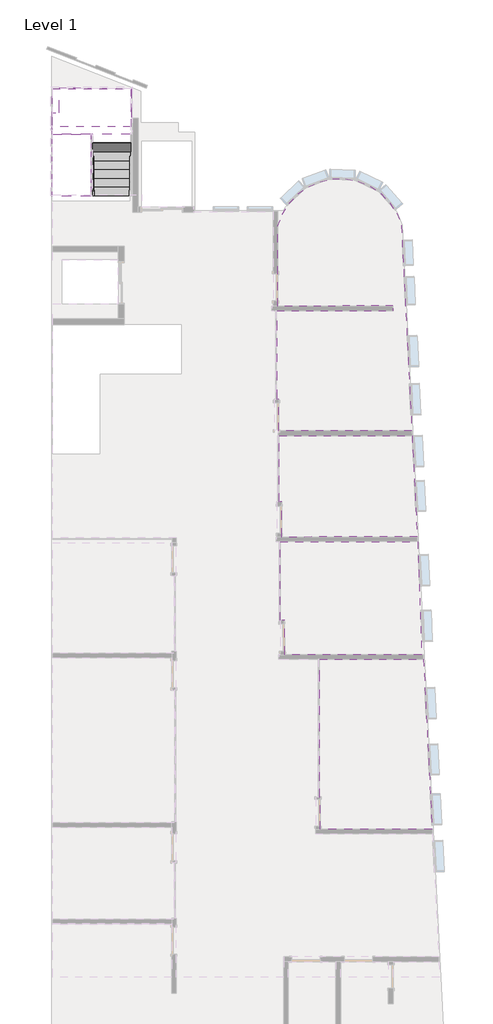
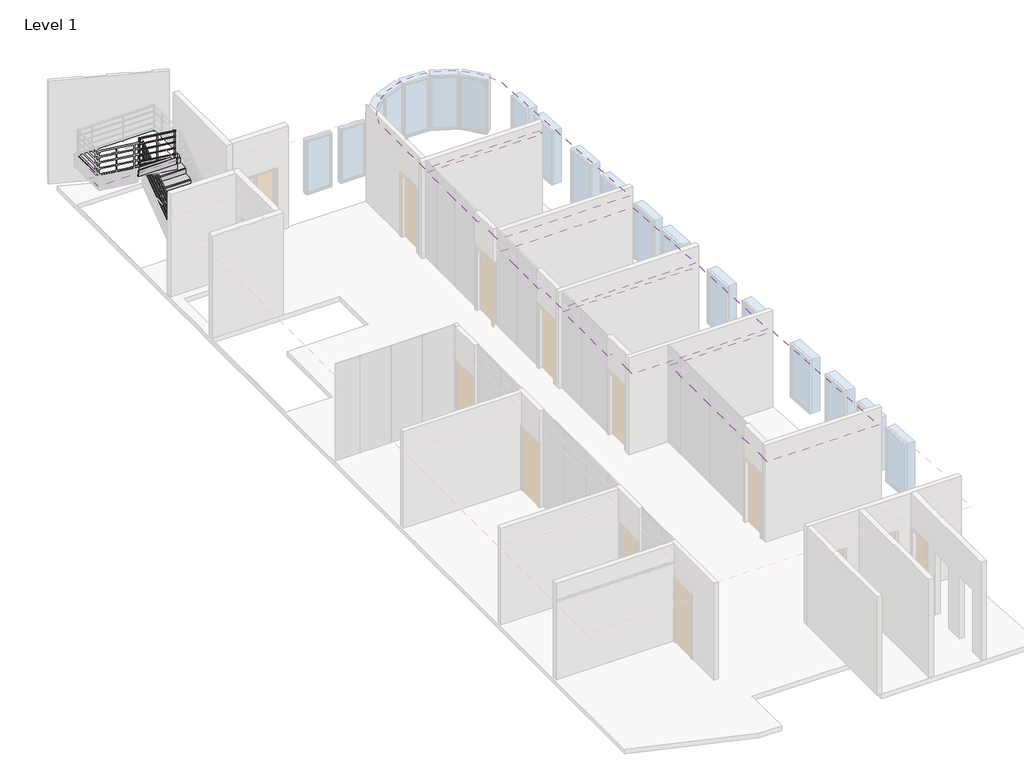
# One storey, part 3 of 4: 5 coverings, 2 stair flights, 1 railing, 1 slab.
"""IFC4 building model written with IfcOpenShell, lengths in millimetres."""

from ifc_helpers import new_model, si_unit, point, frame, frame_2d, origin, place, context, project, spatial, polyline, circle_curve, ellipse_curve, trimmed, segment, composite_curve, outline, extrude, transform, mapped, element, save
from ifc_brep_helpers import plane_surface, cylinder_surface, advanced_brep
from components import non_monolithic_landing_693965b0, stair_flight_50mm_tread_13mm_riser_f0b479b5, stair_flight_50mm_tread_13mm_riser_006057ae

model = new_model("IFC4")

# Units and contexts
model_context = context("Model", 3, world=origin())
ifc_project = project(units=[si_unit("LENGTHUNIT", "METRE", prefix="MILLI")], contexts=[model_context])

# Site, building, storey
site = spatial("IfcSite", under=ifc_project)
building = spatial("IfcBuilding", under=site)
storey = spatial("IfcBuildingStorey", under=building, Name="Level 1", Elevation=4500.0)

# Coverings
placement = place(None, origin())
element("IfcCovering", 1, ObjectType="600 x 600mm Grid", at=placement, inside=storey, context=model_context, shape_type="SweptSolid", body=[
    extrude(outline(composite_curve([segment(polyline([(7150.5392732, 6948.450989), (7150.5392732, 9509.6119752)]), True, "CONTINUOUS"), segment(trimmed(circle_curve(frame_2d((9131.2105116, 8980.9897456)), 2050.0000039), [point((7150.5392732, 9509.6119752))], [point((11105.4759403, 9533.0549888))], False, "CARTESIAN"), True, "CONTINUOUS"), segment(polyline([(11105.4759403, 9533.0549888), (11440.2894881, 2957.3506855), (7185.1048556, 2957.3506855), (7185.1048556, 3970.7828627), (7130.5392732, 3970.7828627), (7130.5392732, 5170.7828627), (7130.5392732, 6170.7828627), (7130.5392732, 6798.4082432), (10838.0678893, 6806.2697987), (10837.7498255, 6956.2694615), (7150.5392732, 6948.450989)]), True, "CONTINUOUS")], self_intersect=False)), frame((0.0, 0.0, 7400.0), z_axis=(0.0, 0.0, 1.0), x_axis=(1.0, 0.0, 0.0)), (0.0, 0.0, 1.0), 52.0),
])
element("IfcCovering", 2, ObjectType="600 x 600mm Grid", at=placement, inside=storey, context=model_context, shape_type="SweptSolid", body=[
    extrude(outline(polyline([(7197.8570765, 2807.3506855), (11447.9270018, 2807.3506855), (11612.8107888, -430.9502585), (7272.8570765, -443.3366135), (7272.8570765, 681.4490289), (7197.8570765, 681.4490289), (7197.8570765, 1802.2893787), (7197.8570765, 2807.3506855)])), frame((0.0, 0.0, 7100.0), z_axis=(0.0, 0.0, 1.0), x_axis=(1.0, 0.0, 0.0)), (0.0, 0.0, 1.0), 52.0),
])
element("IfcCovering", 3, ObjectType="600 x 600mm Grid", at=placement, inside=storey, context=model_context, shape_type="SweptSolid", body=[
    extrude(outline(polyline([(8499.9667664, -4355.3047697), (11812.6261996, -4355.3047697), (12089.3476816, -9790.0867626), (8510.4667664, -9790.0867626), (8510.4667664, -8765.0867626), (8499.9667664, -8765.0867626), (8499.9667664, -6665.0867626), (8499.9667664, -5065.0867626), (8499.9667664, -4355.3047697)])), frame((0.0, 0.0, 7100.0), z_axis=(0.0, 0.0, 1.0), x_axis=(1.0, 0.0, 0.0)), (0.0, 0.0, 1.0), 52.0),
])
element("IfcCovering", 4, ObjectType="600 x 600mm Grid", at=placement, inside=storey, context=model_context, shape_type="SweptSolid", body=[
    extrude(outline(polyline([(11624.8137467, -593.4044177), (11750.9440863, -4205.3047697), (7374.3774869, -4205.3047697), (7374.3774869, -3105.3047697), (7224.8137467, -3105.3047697), (7224.8137467, -593.4044177), (11624.8137467, -593.4044177)])), frame((0.0, 0.0, 7100.0), z_axis=(0.0, 0.0, 1.0), x_axis=(1.0, 0.0, 0.0)), (0.0, 0.0, 1.0), 52.0),
])
element("IfcCovering", 5, ObjectType="600 x 600mm Grid", at=placement, inside=storey, context=model_context, shape_type="SweptSolid", body=[
    extrude(outline(polyline([(2454.9743495, 12688.8107611), (-60.0421304, 12688.8107611), (-60.0421304, 13143.419171), (149.9709975, 13143.419171), (149.9709975, 13943.419171), (2454.9743495, 13908.8107611), (2454.9743495, 12688.8107611)])), frame((0.0, 0.0, 5850.0), z_axis=(0.0, 0.0, 1.0), x_axis=(1.0, 0.0, 0.0)), (0.0, 0.0, 1.0), 52.0),
])

# Railing
element("IfcRailing", 6, ObjectType="900mm Pipe", at=placement, inside=storey, context=model_context, shape_type="SolidModel", body=[
    advanced_brep(
    [(1272.6607589, 10481.5722364, 5581.0577084), (1232.6607589, 10481.5722364, 5581.0577084), (1272.6607589, 12494.9330657, 7061.4700829), (1232.6607589, 12462.7070252, 7037.7744649)],
    [
        (0, 1, ellipse_curve(frame((1252.6607589, 10481.5722364, 5581.0577084), z_axis=(0.0, -1.0, 0.0), x_axis=(0.0, 0.0, -1.0)), 24.8246445, 20.0)),
        (1, 0, ellipse_curve(frame((1252.6607589, 10481.5722364, 5581.0577084), z_axis=(0.0, -1.0, 0.0), x_axis=(0.0, 0.0, -1.0)), 24.8246445, 20.0)),
        (2, 3, ellipse_curve(frame((1252.6607589, 12478.8200454, 7049.6222739), z_axis=(-0.7071067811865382, 0.5696812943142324, 0.4188833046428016), x_axis=(-0.7071067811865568, -0.569681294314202, -0.41888330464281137)), 28.2842712, 20.0)),
        (3, 2, ellipse_curve(frame((1252.6607589, 12478.8200454, 7049.6222739), z_axis=(-0.7071067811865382, 0.5696812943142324, 0.4188833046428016), x_axis=(-0.7071067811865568, -0.569681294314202, -0.41888330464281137)), 28.2842712, 20.0)),
        (0, 2),
        (3, 1),
    ],
    [
        plane_surface(frame((1252.6607589, 10481.5722364, 5605.8823529), z_axis=(0.0, -1.0, 0.0), x_axis=(0.0, 0.0, 1.0))),
        plane_surface(frame((1252.6607589, 12466.9722364, 7065.7352941), z_axis=(-0.7071067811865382, 0.5696812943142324, 0.4188833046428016), x_axis=(0.7071067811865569, 0.5696812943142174, 0.41888330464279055))),
        cylinder_surface(frame((1252.6607589, 10493.4200454, 5589.7693327), z_axis=(0.0, -0.8056510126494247, -0.5923904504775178), x_axis=(-1.0, 0.0, 0.0)), 20.0),
    ],
    [
        (0, [[1, 2]]),
        (1, [[3, 4]]),
        (2, [[-1, 5, -4, 6]]),
        (2, [[-2, -6, -3, -5]]),
    ],
),
    advanced_brep(
    [(1256.9259701, 12486.9722364, 7027.0588235), (1224.6999296, 12446.9722364, 7027.0588235), (1131.8607589, 12486.9722364, 7027.0588235), (1131.8607589, 12446.9722364, 7027.0588235)],
    [
        (0, 1, ellipse_curve(frame((1240.8129499, 12466.9722364, 7027.0588235), z_axis=(0.7071067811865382, -0.5696812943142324, -0.4188833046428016), x_axis=(0.7071067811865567, 0.5696812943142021, 0.4188833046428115)), 28.2842712, 20.0)),
        (1, 0, ellipse_curve(frame((1240.8129499, 12466.9722364, 7027.0588235), z_axis=(0.7071067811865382, -0.5696812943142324, -0.4188833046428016), x_axis=(0.7071067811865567, 0.5696812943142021, 0.4188833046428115)), 28.2842712, 20.0)),
        (2, 3, ellipse_curve(frame((1131.8607589, 12466.9722364, 7027.0588235), z_axis=(-0.7071067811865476, 0.0, 0.7071067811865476), x_axis=(0.7071067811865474, 0.0, 0.7071067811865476)), 28.2842712, 20.0)),
        (3, 2, ellipse_curve(frame((1131.8607589, 12466.9722364, 7027.0588235), z_axis=(-0.7071067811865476, 0.0, 0.7071067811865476), x_axis=(0.7071067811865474, 0.0, 0.7071067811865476)), 28.2842712, 20.0)),
        (0, 2),
        (3, 1),
    ],
    [
        plane_surface(frame((1252.6607589, 12466.9722364, 7047.0588235), z_axis=(0.7071067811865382, -0.5696812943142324, -0.4188833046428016), x_axis=(0.7071067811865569, 0.5696812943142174, 0.41888330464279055))),
        plane_surface(frame((1151.8607589, 12466.9722364, 7047.0588235), z_axis=(-0.7071067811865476, 0.0, 0.7071067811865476), x_axis=(0.7071067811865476, 0.0, 0.7071067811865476))),
        cylinder_surface(frame((1252.6607589, 12466.9722364, 7027.0588235), z_axis=(1.0, 0.0, 0.0), x_axis=(0.0, -1.0, 0.0)), 20.0),
    ],
    [
        (0, [[1, 2]]),
        (1, [[3, 4]]),
        (2, [[-1, 5, -4, 6]]),
        (2, [[-2, -6, -3, -5]]),
    ],
),
    advanced_brep(
    [(1131.8607589, 12486.9722364, 7027.0588235), (1131.8607589, 12446.9722364, 7027.0588235), (1131.8607589, 12486.9722364, 7219.5588235), (1131.8607589, 12446.9722364, 7199.3212992)],
    [
        (0, 1, ellipse_curve(frame((1131.8607589, 12466.9722364, 7027.0588235), z_axis=(0.7071067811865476, 0.0, -0.7071067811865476), x_axis=(-0.7071067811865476, 0.0, -0.7071067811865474)), 28.2842712, 20.0)),
        (1, 0, ellipse_curve(frame((1131.8607589, 12466.9722364, 7027.0588235), z_axis=(0.7071067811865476, 0.0, -0.7071067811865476), x_axis=(-0.7071067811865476, 0.0, -0.7071067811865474)), 28.2842712, 20.0)),
        (2, 3, ellipse_curve(frame((1131.8607589, 12466.9722364, 7209.4400614), z_axis=(0.0, -0.451447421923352, 0.892297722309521), x_axis=(0.0, -0.8922977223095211, -0.4514474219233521)), 22.4140435, 20.0)),
        (3, 2, ellipse_curve(frame((1131.8607589, 12466.9722364, 7209.4400614), z_axis=(0.0, -0.451447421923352, 0.892297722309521), x_axis=(0.0, -0.8922977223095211, -0.4514474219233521)), 22.4140435, 20.0)),
        (0, 2),
        (3, 1),
    ],
    [
        plane_surface(frame((1131.8607589, 12466.9722364, 7027.0588235), z_axis=(0.7071067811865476, 0.0, -0.7071067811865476), x_axis=(0.7071067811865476, 0.0, 0.7071067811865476))),
        plane_surface(frame((1131.8607589, 12466.9722364, 7209.4400614), z_axis=(0.0, -0.451447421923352, 0.892297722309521), x_axis=(1.0, 0.0, 0.0))),
        cylinder_surface(frame((1131.8607589, 12466.9722364, 7027.0588235), z_axis=(0.0, 0.0, -1.0), x_axis=(0.0, -1.0, 0.0)), 20.0),
    ],
    [
        (0, [[1, 2]]),
        (1, [[3, 4]]),
        (2, [[-1, 5, -4, 6]]),
        (2, [[-2, -6, -3, -5]]),
    ],
),
    advanced_brep(
    [(1111.8607589, 12466.9722364, 7209.4400614), (1151.8607589, 12466.9722364, 7209.4400614), (1111.8607589, 10481.5722364, 8669.2930025), (1151.8607589, 10481.5722364, 8669.2930025)],
    [
        (0, 1, ellipse_curve(frame((1131.8607589, 12466.9722364, 7209.4400614), z_axis=(0.0, 0.451447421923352, -0.892297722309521), x_axis=(0.0, 0.8922977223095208, 0.4514474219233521)), 22.4140435, 20.0)),
        (1, 0, ellipse_curve(frame((1131.8607589, 12466.9722364, 7209.4400614), z_axis=(0.0, 0.451447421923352, -0.892297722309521), x_axis=(0.0, 0.8922977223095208, 0.4514474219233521)), 22.4140435, 20.0)),
        (2, 3, ellipse_curve(frame((1131.8607589, 10481.5722364, 8669.2930025), z_axis=(0.0, -1.0, 0.0), x_axis=(0.0, 0.0, -0.9999999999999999)), 24.8246445, 20.0)),
        (3, 2, ellipse_curve(frame((1131.8607589, 10481.5722364, 8669.2930025), z_axis=(0.0, -1.0, 0.0), x_axis=(0.0, 0.0, -0.9999999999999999)), 24.8246445, 20.0)),
        (0, 2),
        (3, 1),
    ],
    [
        plane_surface(frame((1131.8607589, 12486.9722364, 7219.5588235), z_axis=(0.0, 0.451447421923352, -0.892297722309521), x_axis=(1.0, 0.0, 0.0))),
        plane_surface(frame((1131.8607589, 10481.5722364, 8694.1176471), z_axis=(0.0, -1.0, 0.0), x_axis=(0.0, 0.0, -1.0))),
        cylinder_surface(frame((1131.8607589, 12475.1244274, 7203.4458033), z_axis=(0.0, 0.8056510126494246, -0.5923904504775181), x_axis=(1.0, 0.0, 0.0)), 20.0),
    ],
    [
        (0, [[1, 2]]),
        (1, [[3, 4]]),
        (2, [[-1, 5, -4, 6]]),
        (2, [[-2, -6, -3, -5]]),
    ],
),
    advanced_brep(
    [(1267.6607589, 10481.5722364, 5387.2638695), (1237.6607589, 10481.5722364, 5387.2638695), (1267.6607589, 12446.4933738, 6832.0588235), (1237.6607589, 12446.4933738, 6832.0588235), (1267.6607589, 12481.9722364, 6832.0588235), (1237.6607589, 12451.9722364, 6832.0588235), (1146.8607589, 12481.9722364, 6832.0588235), (1146.8607589, 12451.9722364, 6832.0588235)],
    [
        (0, 1, ellipse_curve(frame((1252.6607589, 10481.5722364, 5387.2638695), z_axis=(0.0, -1.0, 0.0), x_axis=(0.0, 0.0, -1.0)), 18.6184834, 15.0)),
        (1, 0, ellipse_curve(frame((1252.6607589, 10481.5722364, 5387.2638695), z_axis=(0.0, -1.0, 0.0), x_axis=(0.0, 0.0, -1.0)), 18.6184834, 15.0)),
        (0, 2),
        (2, 3, ellipse_curve(frame((1252.6607589, 12446.4933738, 6832.0588235), z_axis=(0.0, -0.9501713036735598, -0.3117282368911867), x_axis=(0.0, 0.311728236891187, -0.9501713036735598)), 15.786627, 15.0)),
        (3, 1),
        (3, 2, ellipse_curve(frame((1252.6607589, 12446.4933738, 6832.0588235), z_axis=(0.0, -0.9501713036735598, -0.3117282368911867), x_axis=(0.0, 0.311728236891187, -0.9501713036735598)), 15.786627, 15.0)),
        (2, 4),
        (4, 5, ellipse_curve(frame((1252.6607589, 12466.9722364, 6832.0588235), z_axis=(0.7071067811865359, -0.7071067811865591, 0.0), x_axis=(-0.707106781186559, -0.7071067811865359, 0.0)), 21.2132034, 15.0)),
        (5, 3),
        (5, 4, ellipse_curve(frame((1252.6607589, 12466.9722364, 6832.0588235), z_axis=(0.7071067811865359, -0.7071067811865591, 0.0), x_axis=(-0.707106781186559, -0.7071067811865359, 0.0)), 21.2132034, 15.0)),
        (6, 7, circle_curve(frame((1146.8607589, 12466.9722364, 6832.0588235), z_axis=(-1.0, 0.0, 0.0), x_axis=(0.0, -1.0, 0.0)), 15.0)),
        (7, 6, circle_curve(frame((1146.8607589, 12466.9722364, 6832.0588235), z_axis=(-1.0, 0.0, 0.0), x_axis=(0.0, -1.0, 0.0)), 15.0)),
        (4, 6),
        (7, 5),
    ],
    [
        plane_surface(frame((1252.6607589, 10481.5722364, 5405.8823529), z_axis=(0.0, -1.0, 0.0), x_axis=(0.0, 0.0, 1.0))),
        cylinder_surface(frame((1252.6607589, 10490.4580932, 5393.7975878), z_axis=(0.0, -0.8056510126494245, -0.5923904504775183), x_axis=(-1.0, 0.0, 0.0)), 15.0),
        cylinder_surface(frame((1252.6607589, 12441.5722364, 6832.0588235), z_axis=(0.0, -1.0, 0.0), x_axis=(-1.0, 0.0, 0.0)), 15.0),
        plane_surface(frame((1146.8607589, 12466.9722364, 6847.0588235), z_axis=(-1.0, 0.0, 0.0), x_axis=(0.0, -1.0, 0.0))),
        cylinder_surface(frame((1252.6607589, 12466.9722364, 6832.0588235), z_axis=(1.0, 0.0, 0.0), x_axis=(0.0, -1.0, 0.0)), 15.0),
    ],
    [
        (0, [[1, 2]]),
        (1, [[-1, 3, 4, 5]]),
        (1, [[-2, -5, 6, -3]]),
        (2, [[-4, 7, 8, 9]]),
        (2, [[-6, -9, 10, -7]]),
        (3, [[11, 12]]),
        (4, [[-8, 13, -12, 14]]),
        (4, [[-10, -14, -11, -13]]),
    ],
),
    advanced_brep(
    [(1116.8607589, 12481.9722364, 7004.6168107), (1146.8607589, 12481.9722364, 7004.6168107), (1116.8607589, 10481.5722364, 8475.4991637), (1146.8607589, 10481.5722364, 8475.4991637)],
    [
        (0, 1, ellipse_curve(frame((1131.8607589, 12481.9722364, 7004.6168107), z_axis=(0.0, 1.0, 0.0), x_axis=(0.0, 0.0, -0.9999999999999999)), 18.6184834, 15.0)),
        (1, 0, ellipse_curve(frame((1131.8607589, 12481.9722364, 7004.6168107), z_axis=(0.0, 1.0, 0.0), x_axis=(0.0, 0.0, -0.9999999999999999)), 18.6184834, 15.0)),
        (2, 3, ellipse_curve(frame((1131.8607589, 10481.5722364, 8475.4991637), z_axis=(0.0, -1.0, 0.0), x_axis=(0.0, 0.0, -0.9999999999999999)), 18.6184834, 15.0)),
        (3, 2, ellipse_curve(frame((1131.8607589, 10481.5722364, 8475.4991637), z_axis=(0.0, -1.0, 0.0), x_axis=(0.0, 0.0, -0.9999999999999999)), 18.6184834, 15.0)),
        (0, 2),
        (3, 1),
    ],
    [
        plane_surface(frame((1131.8607589, 12481.9722364, 7023.2352941), z_axis=(0.0, 1.0, 0.0), x_axis=(0.0, 0.0, -1.0))),
        plane_surface(frame((1131.8607589, 10481.5722364, 8494.1176471), z_axis=(0.0, -1.0, 0.0), x_axis=(0.0, 0.0, -1.0))),
        cylinder_surface(frame((1131.8607589, 12473.0863797, 7011.1505289), z_axis=(0.0, 0.8056510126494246, -0.5923904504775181), x_axis=(1.0, 0.0, 0.0)), 15.0),
    ],
    [
        (0, [[1, 2]]),
        (1, [[3, 4]]),
        (2, [[-1, 5, -4, 6]]),
        (2, [[-2, -6, -3, -5]]),
    ],
),
    advanced_brep(
    [(1267.6607589, 10481.5722364, 5187.2638695), (1237.6607589, 10481.5722364, 5187.2638695), (1267.6607589, 12446.4933738, 6632.0588235), (1237.6607589, 12446.4933738, 6632.0588235), (1267.6607589, 12481.9722364, 6632.0588235), (1237.6607589, 12451.9722364, 6632.0588235), (1146.8607589, 12481.9722364, 6632.0588235), (1146.8607589, 12451.9722364, 6632.0588235)],
    [
        (0, 1, ellipse_curve(frame((1252.6607589, 10481.5722364, 5187.2638695), z_axis=(0.0, -1.0, 0.0), x_axis=(0.0, 0.0, -1.0)), 18.6184834, 15.0)),
        (1, 0, ellipse_curve(frame((1252.6607589, 10481.5722364, 5187.2638695), z_axis=(0.0, -1.0, 0.0), x_axis=(0.0, 0.0, -1.0)), 18.6184834, 15.0)),
        (0, 2),
        (2, 3, ellipse_curve(frame((1252.6607589, 12446.4933738, 6632.0588235), z_axis=(0.0, -0.9501713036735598, -0.3117282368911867), x_axis=(0.0, 0.311728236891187, -0.9501713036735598)), 15.786627, 15.0)),
        (3, 1),
        (3, 2, ellipse_curve(frame((1252.6607589, 12446.4933738, 6632.0588235), z_axis=(0.0, -0.9501713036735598, -0.3117282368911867), x_axis=(0.0, 0.311728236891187, -0.9501713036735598)), 15.786627, 15.0)),
        (2, 4),
        (4, 5, ellipse_curve(frame((1252.6607589, 12466.9722364, 6632.0588235), z_axis=(0.7071067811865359, -0.7071067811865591, 0.0), x_axis=(-0.707106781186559, -0.7071067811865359, 0.0)), 21.2132034, 15.0)),
        (5, 3),
        (5, 4, ellipse_curve(frame((1252.6607589, 12466.9722364, 6632.0588235), z_axis=(0.7071067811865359, -0.7071067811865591, 0.0), x_axis=(-0.707106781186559, -0.7071067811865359, 0.0)), 21.2132034, 15.0)),
        (6, 7, circle_curve(frame((1146.8607589, 12466.9722364, 6632.0588235), z_axis=(-1.0, 0.0, 0.0), x_axis=(0.0, -1.0, 0.0)), 15.0)),
        (7, 6, circle_curve(frame((1146.8607589, 12466.9722364, 6632.0588235), z_axis=(-1.0, 0.0, 0.0), x_axis=(0.0, -1.0, 0.0)), 15.0)),
        (4, 6),
        (7, 5),
    ],
    [
        plane_surface(frame((1252.6607589, 10481.5722364, 5205.8823529), z_axis=(0.0, -1.0, 0.0), x_axis=(0.0, 0.0, 1.0))),
        cylinder_surface(frame((1252.6607589, 10490.4580932, 5193.7975878), z_axis=(0.0, -0.8056510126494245, -0.5923904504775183), x_axis=(-1.0, 0.0, 0.0)), 15.0),
        cylinder_surface(frame((1252.6607589, 12441.5722364, 6632.0588235), z_axis=(0.0, -1.0, 0.0), x_axis=(-1.0, 0.0, 0.0)), 15.0),
        plane_surface(frame((1146.8607589, 12466.9722364, 6647.0588235), z_axis=(-1.0, 0.0, 0.0), x_axis=(0.0, -1.0, 0.0))),
        cylinder_surface(frame((1252.6607589, 12466.9722364, 6632.0588235), z_axis=(1.0, 0.0, 0.0), x_axis=(0.0, -1.0, 0.0)), 15.0),
    ],
    [
        (0, [[1, 2]]),
        (1, [[-1, 3, 4, 5]]),
        (1, [[-2, -5, 6, -3]]),
        (2, [[-4, 7, 8, 9]]),
        (2, [[-6, -9, 10, -7]]),
        (3, [[11, 12]]),
        (4, [[-8, 13, -12, 14]]),
        (4, [[-10, -14, -11, -13]]),
    ],
),
    advanced_brep(
    [(1116.8607589, 12481.9722364, 6804.6168107), (1146.8607589, 12481.9722364, 6804.6168107), (1116.8607589, 10481.5722364, 8275.4991637), (1146.8607589, 10481.5722364, 8275.4991637)],
    [
        (0, 1, ellipse_curve(frame((1131.8607589, 12481.9722364, 6804.6168107), z_axis=(0.0, 1.0, 0.0), x_axis=(0.0, 0.0, -0.9999999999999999)), 18.6184834, 15.0)),
        (1, 0, ellipse_curve(frame((1131.8607589, 12481.9722364, 6804.6168107), z_axis=(0.0, 1.0, 0.0), x_axis=(0.0, 0.0, -0.9999999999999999)), 18.6184834, 15.0)),
        (2, 3, ellipse_curve(frame((1131.8607589, 10481.5722364, 8275.4991637), z_axis=(0.0, -1.0, 0.0), x_axis=(0.0, 0.0, -0.9999999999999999)), 18.6184834, 15.0)),
        (3, 2, ellipse_curve(frame((1131.8607589, 10481.5722364, 8275.4991637), z_axis=(0.0, -1.0, 0.0), x_axis=(0.0, 0.0, -0.9999999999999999)), 18.6184834, 15.0)),
        (0, 2),
        (3, 1),
    ],
    [
        plane_surface(frame((1131.8607589, 12481.9722364, 6823.2352941), z_axis=(0.0, 1.0, 0.0), x_axis=(0.0, 0.0, -1.0))),
        plane_surface(frame((1131.8607589, 10481.5722364, 8294.1176471), z_axis=(0.0, -1.0, 0.0), x_axis=(0.0, 0.0, -1.0))),
        cylinder_surface(frame((1131.8607589, 12473.0863797, 6811.1505289), z_axis=(0.0, 0.8056510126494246, -0.5923904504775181), x_axis=(1.0, 0.0, 0.0)), 15.0),
    ],
    [
        (0, [[1, 2]]),
        (1, [[3, 4]]),
        (2, [[-1, 5, -4, 6]]),
        (2, [[-2, -6, -3, -5]]),
    ],
),
    advanced_brep(
    [(1267.6607589, 10481.5722364, 4987.2638695), (1237.6607589, 10481.5722364, 4987.2638695), (1267.6607589, 12446.4933738, 6432.0588235), (1237.6607589, 12446.4933738, 6432.0588235), (1267.6607589, 12481.9722364, 6432.0588235), (1237.6607589, 12451.9722364, 6432.0588235), (1146.8607589, 12481.9722364, 6432.0588235), (1146.8607589, 12451.9722364, 6432.0588235)],
    [
        (0, 1, ellipse_curve(frame((1252.6607589, 10481.5722364, 4987.2638695), z_axis=(0.0, -1.0, 0.0), x_axis=(0.0, 0.0, -1.0)), 18.6184834, 15.0)),
        (1, 0, ellipse_curve(frame((1252.6607589, 10481.5722364, 4987.2638695), z_axis=(0.0, -1.0, 0.0), x_axis=(0.0, 0.0, -1.0)), 18.6184834, 15.0)),
        (0, 2),
        (2, 3, ellipse_curve(frame((1252.6607589, 12446.4933738, 6432.0588235), z_axis=(0.0, -0.9501713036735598, -0.3117282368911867), x_axis=(0.0, 0.311728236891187, -0.9501713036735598)), 15.786627, 15.0)),
        (3, 1),
        (3, 2, ellipse_curve(frame((1252.6607589, 12446.4933738, 6432.0588235), z_axis=(0.0, -0.9501713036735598, -0.3117282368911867), x_axis=(0.0, 0.311728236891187, -0.9501713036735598)), 15.786627, 15.0)),
        (2, 4),
        (4, 5, ellipse_curve(frame((1252.6607589, 12466.9722364, 6432.0588235), z_axis=(0.7071067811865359, -0.7071067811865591, 0.0), x_axis=(-0.707106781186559, -0.7071067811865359, 0.0)), 21.2132034, 15.0)),
        (5, 3),
        (5, 4, ellipse_curve(frame((1252.6607589, 12466.9722364, 6432.0588235), z_axis=(0.7071067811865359, -0.7071067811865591, 0.0), x_axis=(-0.707106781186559, -0.7071067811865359, 0.0)), 21.2132034, 15.0)),
        (6, 7, circle_curve(frame((1146.8607589, 12466.9722364, 6432.0588235), z_axis=(-1.0, 0.0, 0.0), x_axis=(0.0, -1.0, 0.0)), 15.0)),
        (7, 6, circle_curve(frame((1146.8607589, 12466.9722364, 6432.0588235), z_axis=(-1.0, 0.0, 0.0), x_axis=(0.0, -1.0, 0.0)), 15.0)),
        (4, 6),
        (7, 5),
    ],
    [
        plane_surface(frame((1252.6607589, 10481.5722364, 5005.8823529), z_axis=(0.0, -1.0, 0.0), x_axis=(0.0, 0.0, 1.0))),
        cylinder_surface(frame((1252.6607589, 10490.4580932, 4993.7975878), z_axis=(0.0, -0.8056510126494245, -0.5923904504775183), x_axis=(-1.0, 0.0, 0.0)), 15.0),
        cylinder_surface(frame((1252.6607589, 12441.5722364, 6432.0588235), z_axis=(0.0, -1.0, 0.0), x_axis=(-1.0, 0.0, 0.0)), 15.0),
        plane_surface(frame((1146.8607589, 12466.9722364, 6447.0588235), z_axis=(-1.0, 0.0, 0.0), x_axis=(0.0, -1.0, 0.0))),
        cylinder_surface(frame((1252.6607589, 12466.9722364, 6432.0588235), z_axis=(1.0, 0.0, 0.0), x_axis=(0.0, -1.0, 0.0)), 15.0),
    ],
    [
        (0, [[1, 2]]),
        (1, [[-1, 3, 4, 5]]),
        (1, [[-2, -5, 6, -3]]),
        (2, [[-4, 7, 8, 9]]),
        (2, [[-6, -9, 10, -7]]),
        (3, [[11, 12]]),
        (4, [[-8, 13, -12, 14]]),
        (4, [[-10, -14, -11, -13]]),
    ],
),
    advanced_brep(
    [(1116.8607589, 12481.9722364, 6604.6168107), (1146.8607589, 12481.9722364, 6604.6168107), (1116.8607589, 10481.5722364, 8075.4991637), (1146.8607589, 10481.5722364, 8075.4991637)],
    [
        (0, 1, ellipse_curve(frame((1131.8607589, 12481.9722364, 6604.6168107), z_axis=(0.0, 1.0, 0.0), x_axis=(0.0, 0.0, -0.9999999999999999)), 18.6184834, 15.0)),
        (1, 0, ellipse_curve(frame((1131.8607589, 12481.9722364, 6604.6168107), z_axis=(0.0, 1.0, 0.0), x_axis=(0.0, 0.0, -0.9999999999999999)), 18.6184834, 15.0)),
        (2, 3, ellipse_curve(frame((1131.8607589, 10481.5722364, 8075.4991637), z_axis=(0.0, -1.0, 0.0), x_axis=(0.0, 0.0, -0.9999999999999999)), 18.6184834, 15.0)),
        (3, 2, ellipse_curve(frame((1131.8607589, 10481.5722364, 8075.4991637), z_axis=(0.0, -1.0, 0.0), x_axis=(0.0, 0.0, -0.9999999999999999)), 18.6184834, 15.0)),
        (0, 2),
        (3, 1),
    ],
    [
        plane_surface(frame((1131.8607589, 12481.9722364, 6623.2352941), z_axis=(0.0, 1.0, 0.0), x_axis=(0.0, 0.0, -1.0))),
        plane_surface(frame((1131.8607589, 10481.5722364, 8094.1176471), z_axis=(0.0, -1.0, 0.0), x_axis=(0.0, 0.0, -1.0))),
        cylinder_surface(frame((1131.8607589, 12473.0863797, 6611.1505289), z_axis=(0.0, 0.8056510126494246, -0.5923904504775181), x_axis=(1.0, 0.0, 0.0)), 15.0),
    ],
    [
        (0, [[1, 2]]),
        (1, [[3, 4]]),
        (2, [[-1, 5, -4, 6]]),
        (2, [[-2, -6, -3, -5]]),
    ],
),
    advanced_brep(
    [(1267.6607589, 10481.5722364, 4787.2638695), (1237.6607589, 10481.5722364, 4787.2638695), (1267.6607589, 12446.4933738, 6232.0588235), (1237.6607589, 12446.4933738, 6232.0588235), (1267.6607589, 12481.9722364, 6232.0588235), (1237.6607589, 12451.9722364, 6232.0588235), (1146.8607589, 12481.9722364, 6232.0588235), (1146.8607589, 12451.9722364, 6232.0588235)],
    [
        (0, 1, ellipse_curve(frame((1252.6607589, 10481.5722364, 4787.2638695), z_axis=(0.0, -1.0, 0.0), x_axis=(0.0, 0.0, -1.0)), 18.6184834, 15.0)),
        (1, 0, ellipse_curve(frame((1252.6607589, 10481.5722364, 4787.2638695), z_axis=(0.0, -1.0, 0.0), x_axis=(0.0, 0.0, -1.0)), 18.6184834, 15.0)),
        (0, 2),
        (2, 3, ellipse_curve(frame((1252.6607589, 12446.4933738, 6232.0588235), z_axis=(0.0, -0.9501713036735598, -0.3117282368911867), x_axis=(0.0, 0.311728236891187, -0.9501713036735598)), 15.786627, 15.0)),
        (3, 1),
        (3, 2, ellipse_curve(frame((1252.6607589, 12446.4933738, 6232.0588235), z_axis=(0.0, -0.9501713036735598, -0.3117282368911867), x_axis=(0.0, 0.311728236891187, -0.9501713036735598)), 15.786627, 15.0)),
        (2, 4),
        (4, 5, ellipse_curve(frame((1252.6607589, 12466.9722364, 6232.0588235), z_axis=(0.7071067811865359, -0.7071067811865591, 0.0), x_axis=(-0.707106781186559, -0.7071067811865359, 0.0)), 21.2132034, 15.0)),
        (5, 3),
        (5, 4, ellipse_curve(frame((1252.6607589, 12466.9722364, 6232.0588235), z_axis=(0.7071067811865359, -0.7071067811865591, 0.0), x_axis=(-0.707106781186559, -0.7071067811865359, 0.0)), 21.2132034, 15.0)),
        (6, 7, circle_curve(frame((1146.8607589, 12466.9722364, 6232.0588235), z_axis=(-1.0, 0.0, 0.0), x_axis=(0.0, -1.0, 0.0)), 15.0)),
        (7, 6, circle_curve(frame((1146.8607589, 12466.9722364, 6232.0588235), z_axis=(-1.0, 0.0, 0.0), x_axis=(0.0, -1.0, 0.0)), 15.0)),
        (4, 6),
        (7, 5),
    ],
    [
        plane_surface(frame((1252.6607589, 10481.5722364, 4805.8823529), z_axis=(0.0, -1.0, 0.0), x_axis=(0.0, 0.0, 1.0))),
        cylinder_surface(frame((1252.6607589, 10490.4580932, 4793.7975878), z_axis=(0.0, -0.8056510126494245, -0.5923904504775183), x_axis=(-1.0, 0.0, 0.0)), 15.0),
        cylinder_surface(frame((1252.6607589, 12441.5722364, 6232.0588235), z_axis=(0.0, -1.0, 0.0), x_axis=(-1.0, 0.0, 0.0)), 15.0),
        plane_surface(frame((1146.8607589, 12466.9722364, 6247.0588235), z_axis=(-1.0, 0.0, 0.0), x_axis=(0.0, -1.0, 0.0))),
        cylinder_surface(frame((1252.6607589, 12466.9722364, 6232.0588235), z_axis=(1.0, 0.0, 0.0), x_axis=(0.0, -1.0, 0.0)), 15.0),
    ],
    [
        (0, [[1, 2]]),
        (1, [[-1, 3, 4, 5]]),
        (1, [[-2, -5, 6, -3]]),
        (2, [[-4, 7, 8, 9]]),
        (2, [[-6, -9, 10, -7]]),
        (3, [[11, 12]]),
        (4, [[-8, 13, -12, 14]]),
        (4, [[-10, -14, -11, -13]]),
    ],
),
    advanced_brep(
    [(1116.8607589, 12481.9722364, 6404.6168107), (1146.8607589, 12481.9722364, 6404.6168107), (1116.8607589, 10481.5722364, 7875.4991637), (1146.8607589, 10481.5722364, 7875.4991637)],
    [
        (0, 1, ellipse_curve(frame((1131.8607589, 12481.9722364, 6404.6168107), z_axis=(0.0, 1.0, 0.0), x_axis=(0.0, 0.0, -0.9999999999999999)), 18.6184834, 15.0)),
        (1, 0, ellipse_curve(frame((1131.8607589, 12481.9722364, 6404.6168107), z_axis=(0.0, 1.0, 0.0), x_axis=(0.0, 0.0, -0.9999999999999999)), 18.6184834, 15.0)),
        (2, 3, ellipse_curve(frame((1131.8607589, 10481.5722364, 7875.4991637), z_axis=(0.0, -1.0, 0.0), x_axis=(0.0, 0.0, -0.9999999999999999)), 18.6184834, 15.0)),
        (3, 2, ellipse_curve(frame((1131.8607589, 10481.5722364, 7875.4991637), z_axis=(0.0, -1.0, 0.0), x_axis=(0.0, 0.0, -0.9999999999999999)), 18.6184834, 15.0)),
        (0, 2),
        (3, 1),
    ],
    [
        plane_surface(frame((1131.8607589, 12481.9722364, 6423.2352941), z_axis=(0.0, 1.0, 0.0), x_axis=(0.0, 0.0, -1.0))),
        plane_surface(frame((1131.8607589, 10481.5722364, 7894.1176471), z_axis=(0.0, -1.0, 0.0), x_axis=(0.0, 0.0, -1.0))),
        cylinder_surface(frame((1131.8607589, 12473.0863797, 6411.1505289), z_axis=(0.0, 0.8056510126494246, -0.5923904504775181), x_axis=(1.0, 0.0, 0.0)), 15.0),
    ],
    [
        (0, [[1, 2]]),
        (1, [[3, 4]]),
        (2, [[-1, 5, -4, 6]]),
        (2, [[-2, -6, -3, -5]]),
    ],
),
    advanced_brep(
    [(1144.3607589, 11466.9722364, 7919.9095345), (1119.3607589, 11466.9722364, 7919.9095345), (1119.3607589, 11466.9722364, 6970.5882353), (1144.3607589, 11466.9722364, 6970.5882353)],
    [
        (0, 1, ellipse_curve(frame((1131.8607589, 11466.9722364, 7919.9095345), z_axis=(0.0, -0.5923904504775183, -0.8056510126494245), x_axis=(0.0, -0.8056510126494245, 0.592390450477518)), 15.5154028, 12.5)),
        (1, 2),
        (2, 3, circle_curve(frame((1131.8607589, 11466.9722364, 6970.5882353), z_axis=(0.0, 0.0, 1.0), x_axis=(-1.0, 0.0, 0.0)), 12.5)),
        (3, 0),
        (3, 2, circle_curve(frame((1131.8607589, 11466.9722364, 6970.5882353), z_axis=(0.0, 0.0, 1.0), x_axis=(-1.0, 0.0, 0.0)), 12.5)),
        (1, 0, ellipse_curve(frame((1131.8607589, 11466.9722364, 7919.9095345), z_axis=(0.0, -0.5923904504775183, -0.8056510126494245), x_axis=(0.0, -0.8056510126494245, 0.592390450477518)), 15.5154028, 12.5)),
    ],
    [
        cylinder_surface(frame((1131.8607589, 11466.9722364, 6870.5882353), z_axis=(0.0, 0.0, 1.0), x_axis=(-1.0, 0.0, 0.0)), 12.5),
        plane_surface(frame((1106.8607589, 11441.9722364, 7938.2918874), z_axis=(0.0, 0.5923904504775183, 0.8056510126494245), x_axis=(1.0, 0.0, 0.0))),
        plane_surface(frame((1106.8607589, 11491.9722364, 6970.5882353), z_axis=(0.0, 0.0, -1.0), x_axis=(1.0, 0.0, 0.0))),
    ],
    [
        (0, [[1, 2, 3, 4]]),
        (0, [[5, -2, 6, -4]]),
        (1, [[-6, -1]]),
        (2, [[-5, -3]]),
    ],
),
    advanced_brep(
    [(1240.1607589, 11481.5722364, 6291.5271815), (1265.1607589, 11481.5722364, 6291.5271815), (1265.1607589, 11481.5722364, 5323.5294118), (1240.1607589, 11481.5722364, 5323.5294118)],
    [
        (0, 1, ellipse_curve(frame((1252.6607589, 11481.5722364, 6291.5271815), z_axis=(0.0, 0.5923904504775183, -0.8056510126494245), x_axis=(0.0, 0.8056510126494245, 0.592390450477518)), 15.5154028, 12.5)),
        (1, 2),
        (2, 3, circle_curve(frame((1252.6607589, 11481.5722364, 5323.5294118), z_axis=(0.0, 0.0, 1.0), x_axis=(1.0, 0.0, 0.0)), 12.5)),
        (3, 0),
        (3, 2, circle_curve(frame((1252.6607589, 11481.5722364, 5323.5294118), z_axis=(0.0, 0.0, 1.0), x_axis=(1.0, 0.0, 0.0)), 12.5)),
        (1, 0, ellipse_curve(frame((1252.6607589, 11481.5722364, 6291.5271815), z_axis=(0.0, 0.5923904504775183, -0.8056510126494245), x_axis=(0.0, 0.8056510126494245, 0.592390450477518)), 15.5154028, 12.5)),
    ],
    [
        cylinder_surface(frame((1252.6607589, 11481.5722364, 5223.5294118), z_axis=(0.0, 0.0, 1.0), x_axis=(1.0, 0.0, 0.0)), 12.5),
        plane_surface(frame((1277.6607589, 11506.5722364, 6309.9095345), z_axis=(0.0, -0.5923904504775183, 0.8056510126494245), x_axis=(-1.0, 0.0, 0.0))),
        plane_surface(frame((1277.6607589, 11456.5722364, 5323.5294118), z_axis=(0.0, 0.0, -1.0), x_axis=(-1.0, 0.0, 0.0))),
    ],
    [
        (0, [[1, 2, 3, 4]]),
        (0, [[5, -2, 6, -4]]),
        (1, [[-6, -1]]),
        (2, [[-5, -3]]),
    ],
),
    extrude(outline(composite_curve([segment(trimmed(circle_curve(frame_2d((1131.8607589, 12466.9722364)), 12.5), [point((1119.3607589, 12466.9722364))], [point((1144.3607589, 12466.9722364))], False, "CARTESIAN"), True, "CONTINUOUS"), segment(trimmed(circle_curve(frame_2d((1131.8607589, 12466.9722364)), 12.5), [point((1144.3607589, 12466.9722364))], [point((1119.3607589, 12466.9722364))], False, "CARTESIAN"), True, "CONTINUOUS")], self_intersect=False)), frame((0.0, 0.0, 6147.0588235), z_axis=(0.0, 0.0, 1.0), x_axis=(1.0, 0.0, 0.0)), (0.0, 0.0, 1.0), 860.0),
    advanced_brep(
    [(1240.1607589, 12466.9722364, 7016.0860051), (1265.1607589, 12466.9722364, 7016.0860051), (1265.1607589, 12466.9722364, 6147.0588235), (1240.1607589, 12466.9722364, 6147.0588235)],
    [
        (0, 1, ellipse_curve(frame((1252.6607589, 12466.9722364, 7016.0860051), z_axis=(0.0, 0.5923904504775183, -0.8056510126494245), x_axis=(0.0, 0.8056510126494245, 0.592390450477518)), 15.5154028, 12.5)),
        (1, 2),
        (2, 3, circle_curve(frame((1252.6607589, 12466.9722364, 6147.0588235), z_axis=(0.0, 0.0, 1.0), x_axis=(1.0, 0.0, 0.0)), 12.5)),
        (3, 0),
        (3, 2, circle_curve(frame((1252.6607589, 12466.9722364, 6147.0588235), z_axis=(0.0, 0.0, 1.0), x_axis=(1.0, 0.0, 0.0)), 12.5)),
        (1, 0, ellipse_curve(frame((1252.6607589, 12466.9722364, 7016.0860051), z_axis=(0.0, 0.5923904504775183, -0.8056510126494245), x_axis=(0.0, 0.8056510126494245, 0.592390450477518)), 15.5154028, 12.5)),
    ],
    [
        cylinder_surface(frame((1252.6607589, 12466.9722364, 6047.0588235), z_axis=(0.0, 0.0, 1.0), x_axis=(1.0, 0.0, 0.0)), 12.5),
        plane_surface(frame((1277.6607589, 12491.9722364, 7034.468358), z_axis=(0.0, -0.5923904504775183, 0.8056510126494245), x_axis=(-1.0, 0.0, 0.0))),
        plane_surface(frame((1277.6607589, 12441.9722364, 6147.0588235), z_axis=(0.0, 0.0, -1.0), x_axis=(-1.0, 0.0, 0.0))),
    ],
    [
        (0, [[1, 2, 3, 4]]),
        (0, [[5, -2, 6, -4]]),
        (1, [[-6, -1]]),
        (2, [[-5, -3]]),
    ],
),
    advanced_brep(
    [(1240.1607589, 12441.5722364, 6997.4095345), (1265.1607589, 12441.5722364, 6997.4095345), (1265.1607589, 12441.5722364, 6147.0588235), (1240.1607589, 12441.5722364, 6147.0588235)],
    [
        (0, 1, ellipse_curve(frame((1252.6607589, 12441.5722364, 6997.4095345), z_axis=(0.0, 0.5923904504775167, -0.8056510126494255), x_axis=(0.0, 0.8056510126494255, 0.5923904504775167)), 15.5154028, 12.5)),
        (1, 2),
        (2, 3, circle_curve(frame((1252.6607589, 12441.5722364, 6147.0588235), z_axis=(0.0, 0.0, 1.0), x_axis=(1.0, 0.0, 0.0)), 12.5)),
        (3, 0),
        (3, 2, circle_curve(frame((1252.6607589, 12441.5722364, 6147.0588235), z_axis=(0.0, 0.0, 1.0), x_axis=(1.0, 0.0, 0.0)), 12.5)),
        (1, 0, ellipse_curve(frame((1252.6607589, 12441.5722364, 6997.4095345), z_axis=(0.0, 0.5923904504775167, -0.8056510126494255), x_axis=(0.0, 0.8056510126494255, 0.5923904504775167)), 15.5154028, 12.5)),
    ],
    [
        cylinder_surface(frame((1252.6607589, 12441.5722364, 6047.0588235), z_axis=(0.0, 0.0, 1.0), x_axis=(1.0, 0.0, 0.0)), 12.5),
        plane_surface(frame((1277.6607589, 12466.5722364, 7015.7918874), z_axis=(0.0, -0.5923904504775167, 0.8056510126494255), x_axis=(-1.0, 0.0, 0.0))),
        plane_surface(frame((1277.6607589, 12416.5722364, 6147.0588235), z_axis=(0.0, 0.0, -1.0), x_axis=(-1.0, 0.0, 0.0))),
    ],
    [
        (0, [[1, 2, 3, 4]]),
        (0, [[5, -2, 6, -4]]),
        (1, [[-6, -1]]),
        (2, [[-5, -3]]),
    ],
),
    advanced_brep(
    [(1144.3607589, 10494.0722364, 8635.2771815), (1119.3607589, 10494.0722364, 8635.2771815), (1119.3607589, 10494.0722364, 7588.2352941), (1144.3607589, 10494.0722364, 7588.2352941)],
    [
        (0, 1, ellipse_curve(frame((1131.8607589, 10494.0722364, 8635.2771815), z_axis=(0.0, -0.5923904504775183, -0.8056510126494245), x_axis=(0.0, -0.8056510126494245, 0.592390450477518)), 15.5154028, 12.5)),
        (1, 2),
        (2, 3, circle_curve(frame((1131.8607589, 10494.0722364, 7588.2352941), z_axis=(0.0, 0.0, 1.0), x_axis=(-1.0, 0.0, 0.0)), 12.5)),
        (3, 0),
        (3, 2, circle_curve(frame((1131.8607589, 10494.0722364, 7588.2352941), z_axis=(0.0, 0.0, 1.0), x_axis=(-1.0, 0.0, 0.0)), 12.5)),
        (1, 0, ellipse_curve(frame((1131.8607589, 10494.0722364, 8635.2771815), z_axis=(0.0, -0.5923904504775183, -0.8056510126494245), x_axis=(0.0, -0.8056510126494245, 0.592390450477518)), 15.5154028, 12.5)),
    ],
    [
        cylinder_surface(frame((1131.8607589, 10494.0722364, 7488.2352941), z_axis=(0.0, 0.0, 1.0), x_axis=(-1.0, 0.0, 0.0)), 12.5),
        plane_surface(frame((1106.8607589, 10469.0722364, 8653.6595345), z_axis=(0.0, 0.5923904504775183, 0.8056510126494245), x_axis=(1.0, 0.0, 0.0))),
        plane_surface(frame((1106.8607589, 10519.0722364, 7588.2352941), z_axis=(0.0, 0.0, -1.0), x_axis=(1.0, 0.0, 0.0))),
    ],
    [
        (0, [[1, 2, 3, 4]]),
        (0, [[5, -2, 6, -4]]),
        (1, [[-6, -1]]),
        (2, [[-5, -3]]),
    ],
),
    advanced_brep(
    [(1240.1607589, 10494.0722364, 5565.4242404), (1265.1607589, 10494.0722364, 5565.4242404), (1265.1607589, 10494.0722364, 4705.8823529), (1240.1607589, 10494.0722364, 4705.8823529)],
    [
        (0, 1, ellipse_curve(frame((1252.6607589, 10494.0722364, 5565.4242404), z_axis=(0.0, 0.5923904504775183, -0.8056510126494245), x_axis=(0.0, 0.8056510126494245, 0.592390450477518)), 15.5154028, 12.5)),
        (1, 2),
        (2, 3, circle_curve(frame((1252.6607589, 10494.0722364, 4705.8823529), z_axis=(0.0, 0.0, 1.0), x_axis=(1.0, 0.0, 0.0)), 12.5)),
        (3, 0),
        (3, 2, circle_curve(frame((1252.6607589, 10494.0722364, 4705.8823529), z_axis=(0.0, 0.0, 1.0), x_axis=(1.0, 0.0, 0.0)), 12.5)),
        (1, 0, ellipse_curve(frame((1252.6607589, 10494.0722364, 5565.4242404), z_axis=(0.0, 0.5923904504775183, -0.8056510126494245), x_axis=(0.0, 0.8056510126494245, 0.592390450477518)), 15.5154028, 12.5)),
    ],
    [
        cylinder_surface(frame((1252.6607589, 10494.0722364, 4605.8823529), z_axis=(0.0, 0.0, 1.0), x_axis=(1.0, 0.0, 0.0)), 12.5),
        plane_surface(frame((1277.6607589, 10519.0722364, 5583.8065933), z_axis=(0.0, -0.5923904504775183, 0.8056510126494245), x_axis=(-1.0, 0.0, 0.0))),
        plane_surface(frame((1277.6607589, 10469.0722364, 4705.8823529), z_axis=(0.0, 0.0, -1.0), x_axis=(-1.0, 0.0, 0.0))),
    ],
    [
        (0, [[1, 2, 3, 4]]),
        (0, [[5, -2, 6, -4]]),
        (1, [[-6, -1]]),
        (2, [[-5, -3]]),
    ],
),
])

# Slab
non_monolithic_landing_shape = non_monolithic_landing_693965b0(model_context)
element("IfcSlab", 7, ObjectType="Non-Monolithic Landing", at=placement, inside=storey, context=model_context, shape_type="MappedRepresentation", body=[
    mapped(non_monolithic_landing_shape, transform((0.0, 0.0, 0.0), x_axis=(1.0, 0.0, 0.0), y_axis=(0.0, 1.0, 0.0), z_axis=(0.0, 0.0, 1.0))),
])

# Stair flights
stair_flight_50mm_tread_13mm_riser_shape = stair_flight_50mm_tread_13mm_riser_f0b479b5(model_context)
element("IfcStairFlight", 8, ObjectType="50mm Tread 13mm Riser", at=placement, inside=storey, context=model_context, shape_type="MappedRepresentation", body=[
    mapped(stair_flight_50mm_tread_13mm_riser_shape, transform((0.0, 0.0, 0.0), x_axis=(1.0, 0.0, 0.0), y_axis=(0.0, 1.0, 0.0), z_axis=(0.0, 0.0, 1.0))),
])
stair_flight_50mm_tread_13mm_riser_2_shape = stair_flight_50mm_tread_13mm_riser_006057ae(model_context)
element("IfcStairFlight", 9, ObjectType="50mm Tread 13mm Riser", at=placement, inside=storey, context=model_context, shape_type="MappedRepresentation", body=[
    mapped(stair_flight_50mm_tread_13mm_riser_2_shape, transform((0.0, 0.0, 0.0), x_axis=(1.0, 0.0, 0.0), y_axis=(0.0, 1.0, 0.0), z_axis=(0.0, 0.0, 1.0))),
])

save(model, "model.ifc")
